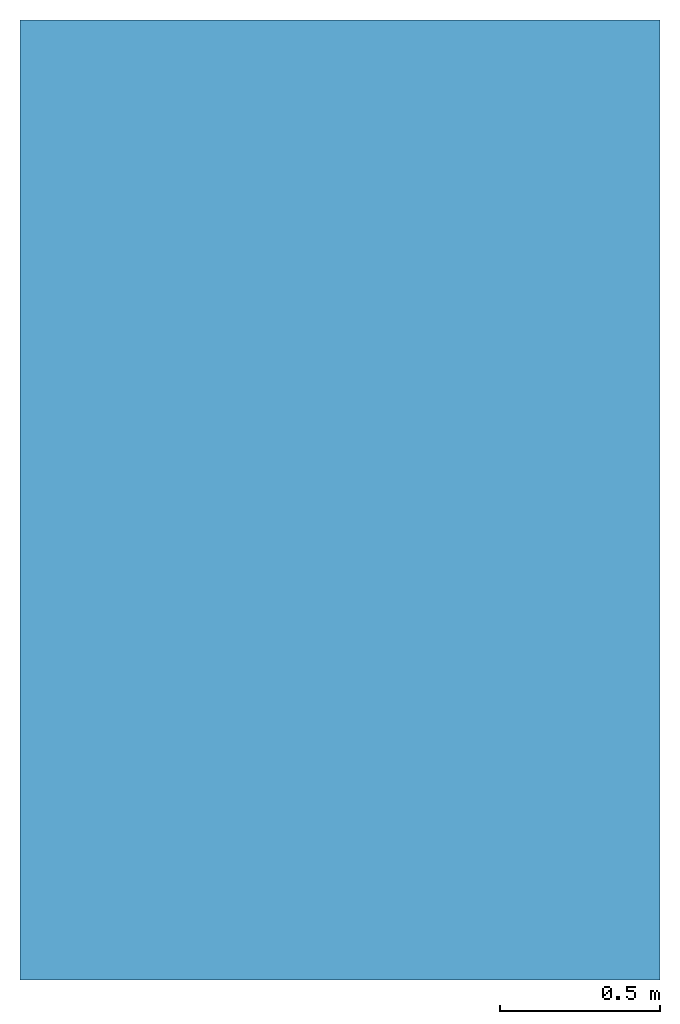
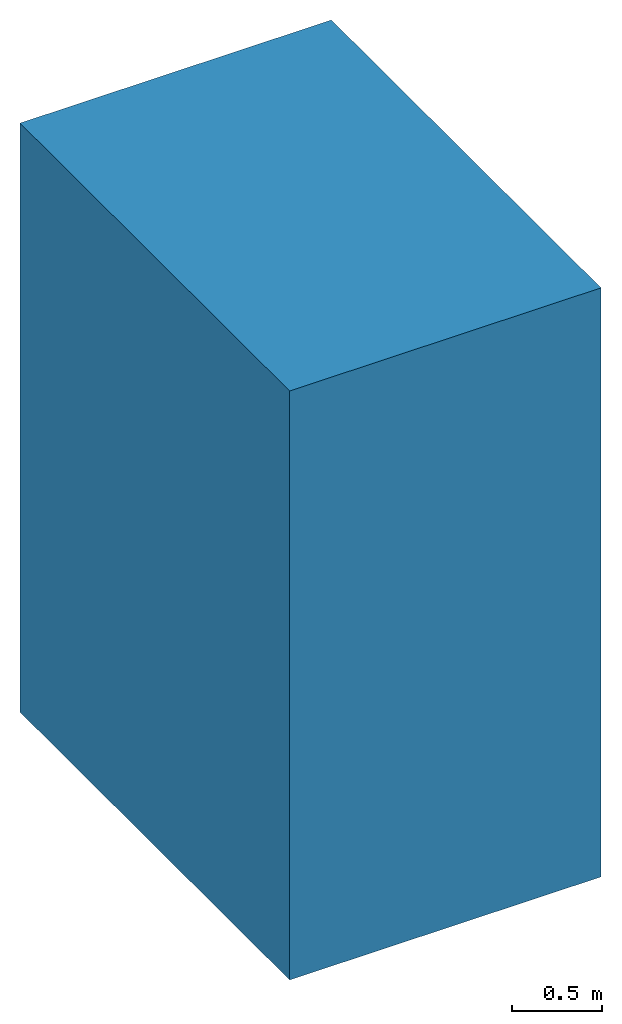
# One storey: 1 slab.
"""IFC4 building model written with IfcOpenShell, lengths in metres."""

import ifcopenshell
import ifcopenshell.guid

model = None  # the IFC model being written
_history = None  # IfcOwnerHistory: only IFC2X3 demands one
_inside = {}  # id of a spatial element -> (the spatial element, [elements in it])
_under = {}  # id of a project, library or spatial element -> (it, [spatial elements below it])
_declared = {}  # id of a project -> (the project, [libraries it declares])
_typed = {}  # id of a type object -> (the type object, [elements of that type])
_made_of = {}  # id of a material, layer set ... -> (it, [elements and type objects made of it])


def new_model(schema):
    """Start an empty IFC model of exactly this schema.

    Asked for "IFC4X3", IfcOpenShell would pick the latest addendum, in which some entities
    have other attributes; the version numbers below select the first issue.
    IFC2X3 requires an IfcOwnerHistory on every rooted entity: one is made here for all.
    """
    global model, _history
    if schema == "IFC4X3":
        model = ifcopenshell.file(schema_version=(4, 3, 0, 0))
    else:
        model = ifcopenshell.file(schema=schema)
    _inside.clear()
    _under.clear()
    _declared.clear()
    _typed.clear()
    _made_of.clear()
    _history = None
    if model.schema == "IFC2X3":
        org = make("IfcOrganization", Name="unknown")
        user = make(
            "IfcPersonAndOrganization",
            ThePerson=make("IfcPerson", FamilyName="unknown"),
            TheOrganization=org,
        )
        app = make(
            "IfcApplication",
            ApplicationDeveloper=org,
            Version="unknown",
            ApplicationFullName="unknown",
            ApplicationIdentifier="unknown",
        )
        _history = make(
            "IfcOwnerHistory",
            OwningUser=user,
            OwningApplication=app,
            ChangeAction="ADDED",
            CreationDate=0,
        )
    return model


def make(cls, **values):
    """One entity of the class cls with the attributes given. An attribute that is None is left unset."""
    return model.create_entity(
        cls, **{name: value for name, value in values.items() if value is not None}
    )


def rooted(cls, **values):
    """An entity with a GlobalId (a new one), such as an element, a storey or a relation."""
    return make(cls, GlobalId=ifcopenshell.guid.new(), OwnerHistory=_history, **values)


def si_unit(unit_type, name, prefix=None):
    """IfcSIUnit, for example si_unit("LENGTHUNIT", "METRE", prefix="MILLI")."""
    return make("IfcSIUnit", UnitType=unit_type, Prefix=prefix, Name=name)


def assignment(units):
    """IfcUnitAssignment: the units of a project."""
    return None if units is None else make("IfcUnitAssignment", Units=units)


def point(xyz):
    """IfcCartesianPoint."""
    return None if xyz is None else make("IfcCartesianPoint", Coordinates=xyz)


def direction(xyz):
    """IfcDirection."""
    return None if xyz is None else make("IfcDirection", DirectionRatios=xyz)


def frame(location, z_axis=None, x_axis=None):
    """IfcAxis2Placement3D, a coordinate frame: its origin and axes. An axis left out is left unset."""
    return make(
        "IfcAxis2Placement3D",
        Location=point(location),
        Axis=direction(z_axis),
        RefDirection=direction(x_axis),
    )


def origin():
    """The frame at (0, 0, 0) with its axes left unset."""
    return frame((0.0, 0.0, 0.0))


def place(relative_to, where):
    """IfcLocalPlacement: puts the frame where relative to a parent placement (None: the world)."""
    return make(
        "IfcLocalPlacement", PlacementRelTo=relative_to, RelativePlacement=where
    )


def context(
    kind, dimensions, precision=None, world=None, true_north=None, identifier=None
):
    """IfcGeometricRepresentationContext, for example the 3D "Model" context."""
    return make(
        "IfcGeometricRepresentationContext",
        ContextIdentifier=identifier,
        ContextType=kind,
        CoordinateSpaceDimension=dimensions,
        Precision=precision,
        WorldCoordinateSystem=world,
        TrueNorth=true_north,
    )


def project(units=None, contexts=None):
    """IfcProject with its units and contexts."""
    return rooted(
        "IfcProject",
        Name="project",
        RepresentationContexts=contexts,
        UnitsInContext=assignment(units),
    )


def spatial(cls, under=None, at=None, **own):
    """A site, building, storey or space (cls), placed at a placement, below another one or the project."""
    s = rooted(cls, ObjectPlacement=at, **own)
    if under is not None:
        _under.setdefault(under.id(), (under, []))[1].append(s)
    return s


def faces_of(points, faces, orient=None, outer=None):
    """IfcFace entities. A face is a list of loops; a loop is a list of indices into points, from 0.

    orient and outer hold one flag for each loop. By default every Orientation is true, the
    first loop of a face is its IfcFaceOuterBound and the others are IfcFaceBound.
    """
    made = []
    for i, loops in enumerate(faces):
        bounds = []
        for j, loop in enumerate(loops):
            is_outer = j == 0 if outer is None else outer[i][j]
            bounds.append(
                make(
                    "IfcFaceOuterBound" if is_outer else "IfcFaceBound",
                    Bound=make("IfcPolyLoop", Polygon=[points[k] for k in loop]),
                    Orientation=True if orient is None else orient[i][j],
                )
            )
        made.append(make("IfcFace", Bounds=bounds))
    return made


def faceted_brep(points, faces, orient=None, outer=None, voids=None):
    """IfcFacetedBrep: a solid bounded by flat faces; with voids (closed shells), ...WithVoids."""
    shared = [point(p) for p in points]
    hull = make("IfcClosedShell", CfsFaces=faces_of(shared, faces, orient, outer))
    if voids is None:
        return make("IfcFacetedBrep", Outer=hull)
    return make(
        "IfcFacetedBrepWithVoids",
        Outer=hull,
        Voids=[
            make(cls, CfsFaces=faces_of(shared, fs, o, b)) for cls, fs, o, b in voids
        ],
    )


def shape(context_of_items, identifier, shape_type, items):
    """IfcShapeRepresentation: the items that make up one representation, for example the "Body"."""
    return make(
        "IfcShapeRepresentation",
        ContextOfItems=context_of_items,
        RepresentationIdentifier=identifier,
        RepresentationType=shape_type,
        Items=items,
    )


def made_of(thing, what):
    """Note that an element or type object is made of a material, layer set ...; save() writes the relation."""
    if what is not None:
        _made_of.setdefault(what.id(), (what, []))[1].append(thing)
    return thing


def element(
    cls,
    number,
    at=None,
    inside=None,
    cuts=None,
    type_object=None,
    material=None,
    context=None,
    identifier="Body",
    shape_type=None,
    held_by="IfcProductDefinitionShape",
    body=None,
    shapes=None,
    **own,
):
    """One element of the class cls, such as IfcWall. Its Tag is "e" and its number.

    at: its placement. inside: the storey or other place that contains it. cuts: it is an
    opening in that element (IfcRelVoidsElement). A single representation is given by context,
    identifier, shape_type and body (its items); several are given by shapes. held_by: the class
    of the entity that holds the representations. save() writes the other relations.
    """
    e = rooted(cls, Tag="e%d" % number, ObjectPlacement=at, **own)
    if body is not None:
        shapes = [shape(context, identifier, shape_type, body)]
    if shapes is not None:
        e.Representation = make(held_by, Representations=shapes)
    if inside is not None:
        _inside.setdefault(inside.id(), (inside, []))[1].append(e)
    if cuts is not None:
        rooted(
            "IfcRelVoidsElement", RelatingBuildingElement=cuts, RelatedOpeningElement=e
        )
    if type_object is not None:
        _typed.setdefault(type_object.id(), (type_object, []))[1].append(e)
    return made_of(e, material)


def aggregate(whole, parts):
    """IfcRelAggregates: a whole, such as a stair, and the parts it consists of."""
    return rooted("IfcRelAggregates", RelatingObject=whole, RelatedObjects=parts)


def save(model, path):
    """Write the relations noted so far, then the file.

    IfcRelAggregates (storeys below a building ...), IfcRelContainedInSpatialStructure (elements
    in a storey), IfcRelDefinesByType, IfcRelAssociatesMaterial and IfcRelDeclares: one each for
    every whole, place, type object, material and project.
    """
    for whole, parts in _under.values():
        aggregate(whole, parts)
    for where, things in _inside.values():
        rooted(
            "IfcRelContainedInSpatialStructure",
            RelatedElements=things,
            RelatingStructure=where,
        )
    for kind, things in _typed.values():
        rooted("IfcRelDefinesByType", RelatedObjects=things, RelatingType=kind)
    for what, things in _made_of.values():
        rooted("IfcRelAssociatesMaterial", RelatedObjects=things, RelatingMaterial=what)
    for by, libraries in _declared.values():
        rooted("IfcRelDeclares", RelatingContext=by, RelatedDefinitions=libraries)
    model.write(path)


model = new_model("IFC4")

# Units and contexts
model_context = context("Model", 3, precision=1e-05, world=origin())
ifc_project = project(units=[si_unit("LENGTHUNIT", "METRE"), si_unit("AREAUNIT", "SQUARE_METRE"), si_unit("VOLUMEUNIT", "CUBIC_METRE")], contexts=[model_context])

# Site, building, storey
placement = place(None, origin())
site = spatial("IfcSite", under=ifc_project, at=placement, Name="Site", CompositionType="ELEMENT")
building = spatial("IfcBuilding", under=site, at=placement, Name="Building", CompositionType="ELEMENT")
storey = spatial("IfcBuildingStorey", under=building, at=placement, Name="Storey", CompositionType="ELEMENT", Elevation=0.0)

# Slab
element("IfcSlab", 1, at=placement, inside=storey, Name="Muro de José IfcSlab", context=model_context, shape_type="Brep", body=[
    faceted_brep([(0.0, 0.0, 0.0), (0.0, 3.0, 0.0), (2.0, 3.0, 0.0), (2.0, 0.0, 0.0), (0.0, 0.0, 4.0), (2.0, 0.0, 4.0), (2.0, 3.0, 4.0), (0.0, 3.0, 4.0)], [[[0, 1, 2, 3]], [[4, 5, 6, 7]], [[0, 3, 5, 4]], [[3, 2, 6, 5]], [[2, 1, 7, 6]], [[1, 0, 4, 7]]]),
])

save(model, "model.ifc")
